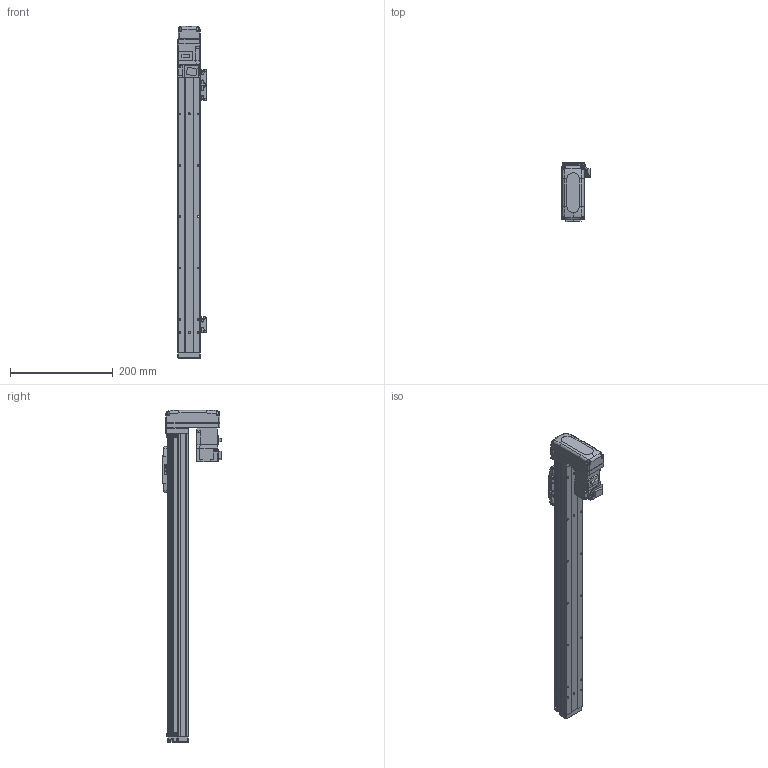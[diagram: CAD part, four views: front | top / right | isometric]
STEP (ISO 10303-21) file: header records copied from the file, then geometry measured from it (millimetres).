
FILE_DESCRIPTION (( 'STEP AP203' ), '1' );
FILE_NAME ('BTH40-450-BM-M05-C4.step', '2021-12-16T00:18:58', ( '微软用户' ), ( '微软中国' ), 'SwSTEP 2.0', 'SolidWorks 2020', '' );
FILE_SCHEMA (( 'CONFIG_CONTROL_DESIGN' ));
Length unit declared in the file: millimetre
Products named in the file (19): BTH50-023; BTH40-013; BTH40-001-50_BTH40-001-450; BTH50-024; HG-KR13; BTH40-003; GBT 70.1-M3℅6; GBT 70.3-M3℅6; BTH40-006; GBT96.1-2002 3×0.8; BTH40-027-1; BTH-M3X5X6; BTH40-022; BTH50-026; GBT70.1-2000 M3×16; GBT 70.1-M2.5×6; BTH40-450-BM-M05-C4; BTH50-028; BTH40-004
Assembly tree (47 placements, depth 2):
  BTH40-450-BM-M05-C4
    BTH40-001-50_BTH40-001-450
    BTH40-003
    BTH40-006
    BTH-M3X5X6  x8
    GBT70.1-2000 M3×16  x4
    BTH50-028  x2
    BTH50-023  x3
    BTH50-024  x3
    GBT 70.1-M3℅6  x6
    GBT96.1-2002 3×0.8  x6
    BTH40-022
    GBT 70.1-M2.5×6  x2
    BTH40-004
    BTH40-013
    HG-KR13
    GBT 70.3-M3℅6  x4
    BTH40-027-1
    BTH50-026
Bounding box: 55.2 x 115.8 x 646 mm (x, y, z)
Volume: 1204242.1 mm3; surface area: 216821 mm2
Topology: 49 solids, 49 shells, 1983 faces, 4659 edges, 2866 vertices
Faces by surface type: plane 1052, cylinder 495, cone 270, torus 128, bspline 34, sphere 4
Entity records: 39691 total; most frequent: CARTESIAN_POINT 7594, DIRECTION 6224, ORIENTED_EDGE 5964, EDGE_CURVE 2982, AXIS2_PLACEMENT_3D 2131, VECTOR 1962, LINE 1962, VERTEX_POINT 1853
